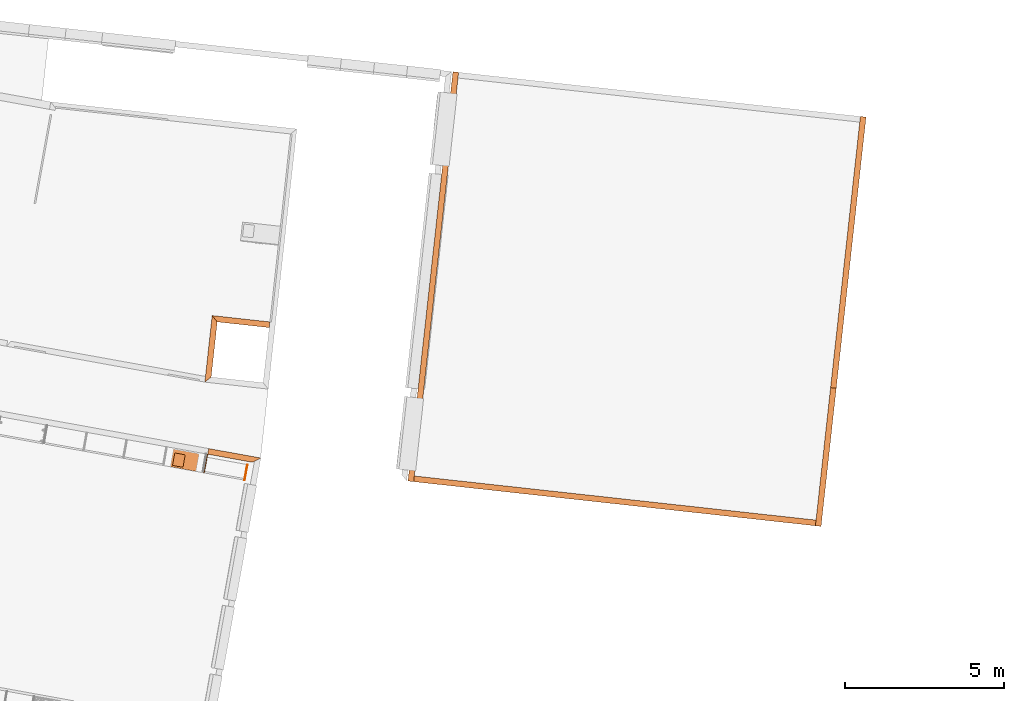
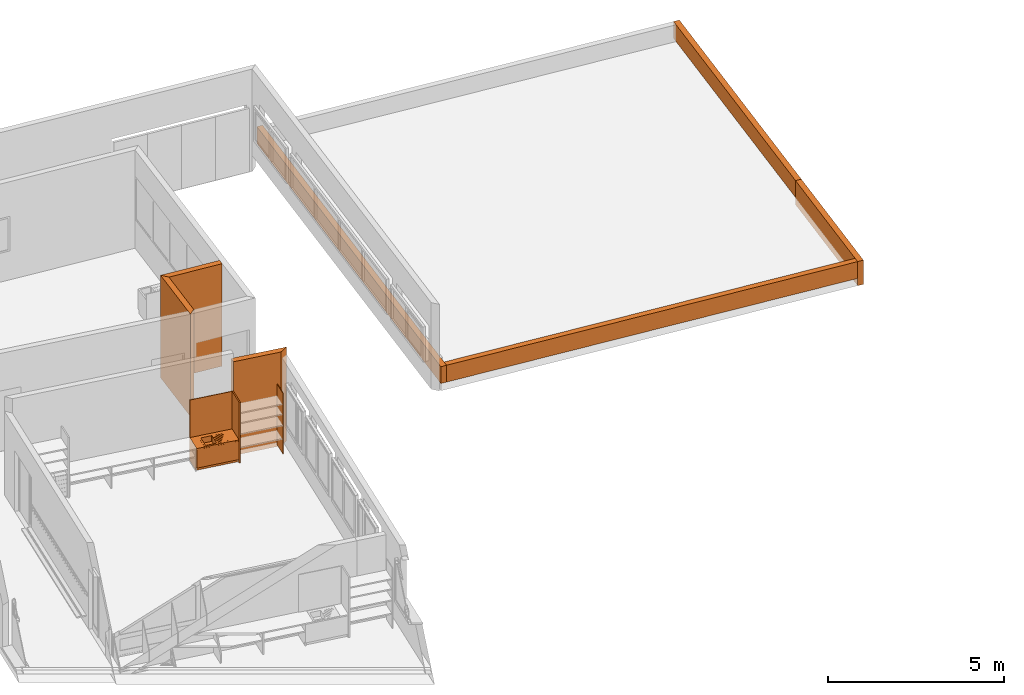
# One storey, part 25 of 52: 10 proxies.
"""IFC2X3 building model written with IfcOpenShell, lengths in metres."""

from ifc_helpers import new_model, entity, si_unit, converted_unit, derived_unit, money_unit, direction, frame, origin_with_axes, place, context, subcontext, project, spatial, polyline, outline, extrude, open_shell, faceted_brep, surface_model, source, transform, mapped, material, type_object, element, save


model = new_model("IFC2X3")

# Units and contexts
model_context = context("Model", 3, precision=1e-05, world=origin_with_axes(), true_north=direction((0.0, 1.0)))
body_context = subcontext(model_context, "Body", "Model", "MODEL_VIEW")
ifc_project = project(units=[si_unit("LENGTHUNIT", "METRE"), si_unit("AREAUNIT", "SQUARE_METRE"), si_unit("VOLUMEUNIT", "CUBIC_METRE"), converted_unit("PLANEANGLEUNIT", "DEGREE", entity("IfcPlaneAngleMeasure", 0.0174532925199), si_unit("PLANEANGLEUNIT", "RADIAN"), dimensions=[0, 0, 0, 0, 0, 0, 0]), money_unit("CHF"), converted_unit("TIMEUNIT", "Year", entity("IfcTimeMeasure", 31556926.0), si_unit("TIMEUNIT", "SECOND"), dimensions=[0, 0, 1, 0, 0, 0, 0]), si_unit("MASSUNIT", "GRAM", prefix="KILO"), si_unit("THERMODYNAMICTEMPERATUREUNIT", "DEGREE_CELSIUS"), si_unit("LUMINOUSINTENSITYUNIT", "LUMEN"), si_unit("ENERGYUNIT", "JOULE", prefix="MEGA"), derived_unit("THERMALCONDUCTANCEUNIT", [(si_unit("POWERUNIT", "WATT"), 1), (si_unit("LENGTHUNIT", "METRE"), -1), (si_unit("THERMODYNAMICTEMPERATUREUNIT", "KELVIN"), -1)]), derived_unit("SPECIFICHEATCAPACITYUNIT", [(si_unit("ENERGYUNIT", "JOULE"), 1), (si_unit("MASSUNIT", "GRAM", prefix="KILO"), -1), (si_unit("THERMODYNAMICTEMPERATUREUNIT", "KELVIN"), -1)]), derived_unit("MASSDENSITYUNIT", [(si_unit("MASSUNIT", "GRAM", prefix="KILO"), 1), (si_unit("VOLUMEUNIT", "CUBIC_METRE"), -1)])], contexts=[model_context])

# Site, building, storey
site_placement = place(None, frame((0.0, 0.0, 0.0), z_axis=(0.0, 0.0, 1.0), x_axis=(-0.177771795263, -0.984071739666, 0.0)))
site = spatial("IfcSite", under=ifc_project, at=site_placement, Name="Site", CompositionType="ELEMENT")
building_placement = place(site_placement, origin_with_axes())
building = spatial("IfcBuilding", under=site, at=building_placement, Name="Bâtiment", CompositionType="ELEMENT")
storey_placement = place(building_placement, frame((0.0, 0.0, 3.2), z_axis=(0.0, 0.0, 1.0), x_axis=(1.0, 0.0, 0.0)))
storey = spatial("IfcBuildingStorey", under=building, at=storey_placement, Name="R+1", CompositionType="ELEMENT", Elevation=3.2)

# Proxies
ifc_material_1 = material(Name="_BA banché RAL9007")
building_element_proxy_type_1 = type_object("IfcBuildingElementProxyType", Name="_BA banché RAL9007 180", PredefinedType="NOTDEFINED")
proxy_1_placement = place(storey_placement, frame((105.959479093, -150.412260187, -0.15), z_axis=(0.0, 0.0, 1.0), x_axis=(-0.0692640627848, 0.997598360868, 0.0)))
element("IfcBuildingElementProxy", 1, at=proxy_1_placement, inside=storey, type_object=building_element_proxy_type_1, material=ifc_material_1, Name="M refend", context=body_context, shape_type="SweptSolid", body=[
    extrude(outline(polyline([(0.18, 0.0), (1.83000000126, 0.0), (1.83000000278, 0.18), (1.52400048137e-09, 0.18), (0.18, 0.0)])), origin_with_axes(), (0.0, 0.0, 1.0), 3.55),
])
proxy_2_placement = place(storey_placement, frame((107.884841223, -150.27858075, -0.15), z_axis=(0.0, 0.0, 1.0), x_axis=(-0.997598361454, -0.0692640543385, 0.0)))
element("IfcBuildingElementProxy", 2, at=proxy_2_placement, inside=storey, type_object=building_element_proxy_type_1, material=ifc_material_1, Name="M refend", context=body_context, shape_type="SweptSolid", body=[
    extrude(outline(polyline([(0.179997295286, -0.18), (1.92999728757, -0.18), (2.10999728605, 0.0), (-2.70471436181e-06, 0.0), (0.179997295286, -0.18)])), origin_with_axes(), (0.0, 0.0, 1.0), 3.55),
])
ifc_material_2 = material(Name="Matériau de construction IFC")
building_element_proxy_type_2 = type_object("IfcBuildingElementProxyType", Name="Elément simple avec deux portes 21", PredefinedType="NOTDEFINED")
shared_shape = source(origin_with_axes(), body_context, "Body", "SurfaceModel", [
    surface_model("IfcShellBasedSurfaceModel", [(0.5, 0.600000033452, 0.733), (0.496505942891, 0.600000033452, 0.733460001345), (0.496505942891, 0.620000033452, 0.733460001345), (0.5, 0.620000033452, 0.733), (0.49325, 0.600000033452, 0.734808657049), (0.49325, 0.620000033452, 0.734808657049), (0.503494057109, 0.600000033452, 0.733460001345), (0.503494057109, 0.620000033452, 0.733460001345), (0.490454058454, 0.600000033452, 0.736954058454), (0.490454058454, 0.620000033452, 0.736954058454), (0.50675, 0.600000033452, 0.734808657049), (0.50675, 0.620000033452, 0.734808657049), (0.488308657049, 0.600000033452, 0.73975), (0.488308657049, 0.620000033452, 0.73975), (0.509545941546, 0.600000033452, 0.736954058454), (0.509545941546, 0.620000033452, 0.736954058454), (0.486960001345, 0.600000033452, 0.743005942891), (0.486960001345, 0.620000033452, 0.743005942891), (0.511691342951, 0.600000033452, 0.73975), (0.511691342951, 0.620000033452, 0.73975), (0.4865, 0.600000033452, 0.7465), (0.4865, 0.620000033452, 0.7465), (0.513039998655, 0.600000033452, 0.743005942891), (0.513039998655, 0.620000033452, 0.743005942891), (0.486960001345, 0.600000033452, 0.749994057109), (0.486960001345, 0.620000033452, 0.749994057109), (0.5135, 0.600000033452, 0.7465), (0.5135, 0.620000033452, 0.7465), (0.488308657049, 0.600000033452, 0.75325), (0.488308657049, 0.620000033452, 0.75325), (0.513039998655, 0.600000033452, 0.749994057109), (0.513039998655, 0.620000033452, 0.749994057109), (0.490454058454, 0.600000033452, 0.756045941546), (0.490454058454, 0.620000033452, 0.756045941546), (0.511691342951, 0.600000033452, 0.75325), (0.511691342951, 0.620000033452, 0.75325), (0.49325, 0.600000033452, 0.758191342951), (0.49325, 0.620000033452, 0.758191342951), (0.509545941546, 0.600000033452, 0.756045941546), (0.509545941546, 0.620000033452, 0.756045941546), (0.496505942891, 0.600000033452, 0.759539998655), (0.496505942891, 0.620000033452, 0.759539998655), (0.50675, 0.600000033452, 0.758191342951), (0.50675, 0.620000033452, 0.758191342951), (0.5, 0.600000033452, 0.76), (0.5, 0.620000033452, 0.76), (0.503494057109, 0.600000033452, 0.759539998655), (0.503494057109, 0.620000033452, 0.759539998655)], [open_shell([[[0, 1, 2, 3]], [[1, 4, 5, 2]], [[6, 0, 3, 7]], [[4, 8, 9, 5]], [[10, 6, 7, 11]], [[8, 12, 13, 9]], [[14, 10, 11, 15]], [[12, 16, 17, 13]], [[18, 14, 15, 19]], [[16, 20, 21, 17]], [[22, 18, 19, 23]], [[20, 24, 25, 21]], [[26, 22, 23, 27]], [[24, 28, 29, 25]], [[30, 26, 27, 31]], [[28, 32, 33, 29]], [[34, 30, 31, 35]], [[32, 36, 37, 33]], [[38, 34, 35, 39]], [[36, 40, 41, 37]], [[42, 38, 39, 43]], [[40, 44, 45, 41]], [[46, 42, 43, 47]], [[44, 46, 47, 45]]])]),
    surface_model("IfcShellBasedSurfaceModel", [(0.7, 0.600000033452, 0.733), (0.696505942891, 0.600000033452, 0.733460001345), (0.696505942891, 0.620000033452, 0.733460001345), (0.7, 0.620000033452, 0.733), (0.69325, 0.600000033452, 0.734808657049), (0.69325, 0.620000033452, 0.734808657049), (0.703494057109, 0.600000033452, 0.733460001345), (0.703494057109, 0.620000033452, 0.733460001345), (0.690454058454, 0.600000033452, 0.736954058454), (0.690454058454, 0.620000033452, 0.736954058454), (0.70675, 0.600000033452, 0.734808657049), (0.70675, 0.620000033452, 0.734808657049), (0.688308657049, 0.600000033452, 0.73975), (0.688308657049, 0.620000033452, 0.73975), (0.709545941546, 0.600000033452, 0.736954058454), (0.709545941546, 0.620000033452, 0.736954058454), (0.686960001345, 0.600000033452, 0.743005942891), (0.686960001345, 0.620000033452, 0.743005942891), (0.711691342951, 0.600000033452, 0.73975), (0.711691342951, 0.620000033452, 0.73975), (0.6865, 0.600000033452, 0.7465), (0.6865, 0.620000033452, 0.7465), (0.713039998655, 0.600000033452, 0.743005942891), (0.713039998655, 0.620000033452, 0.743005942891), (0.686960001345, 0.600000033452, 0.749994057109), (0.686960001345, 0.620000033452, 0.749994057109), (0.7135, 0.600000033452, 0.7465), (0.7135, 0.620000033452, 0.7465), (0.688308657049, 0.600000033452, 0.75325), (0.688308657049, 0.620000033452, 0.75325), (0.713039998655, 0.600000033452, 0.749994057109), (0.713039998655, 0.620000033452, 0.749994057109), (0.690454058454, 0.600000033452, 0.756045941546), (0.690454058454, 0.620000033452, 0.756045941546), (0.711691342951, 0.600000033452, 0.75325), (0.711691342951, 0.620000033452, 0.75325), (0.69325, 0.600000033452, 0.758191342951), (0.69325, 0.620000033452, 0.758191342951), (0.709545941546, 0.600000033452, 0.756045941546), (0.709545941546, 0.620000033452, 0.756045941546), (0.696505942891, 0.600000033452, 0.759539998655), (0.696505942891, 0.620000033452, 0.759539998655), (0.70675, 0.600000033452, 0.758191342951), (0.70675, 0.620000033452, 0.758191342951), (0.7, 0.600000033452, 0.76), (0.7, 0.620000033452, 0.76), (0.703494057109, 0.600000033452, 0.759539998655), (0.703494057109, 0.620000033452, 0.759539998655)], [open_shell([[[0, 1, 2, 3]], [[1, 4, 5, 2]], [[6, 0, 3, 7]], [[4, 8, 9, 5]], [[10, 6, 7, 11]], [[8, 12, 13, 9]], [[14, 10, 11, 15]], [[12, 16, 17, 13]], [[18, 14, 15, 19]], [[16, 20, 21, 17]], [[22, 18, 19, 23]], [[20, 24, 25, 21]], [[26, 22, 23, 27]], [[24, 28, 29, 25]], [[30, 26, 27, 31]], [[28, 32, 33, 29]], [[34, 30, 31, 35]], [[32, 36, 37, 33]], [[38, 34, 35, 39]], [[36, 40, 41, 37]], [[42, 38, 39, 43]], [[40, 44, 45, 41]], [[46, 42, 43, 47]], [[44, 46, 47, 45]]])]),
    surface_model("IfcShellBasedSurfaceModel", [(0.6, 0.600000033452, 0.579), (0.594564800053, 0.600000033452, 0.579715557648), (0.594564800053, 0.620000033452, 0.579715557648), (0.6, 0.620000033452, 0.579), (0.5895, 0.600000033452, 0.581813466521), (0.5895, 0.620000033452, 0.581813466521), (0.605435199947, 0.600000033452, 0.579715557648), (0.605435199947, 0.620000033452, 0.579715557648), (0.585150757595, 0.600000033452, 0.585150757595), (0.585150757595, 0.620000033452, 0.585150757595), (0.6105, 0.600000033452, 0.581813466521), (0.6105, 0.620000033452, 0.581813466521), (0.581813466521, 0.600000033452, 0.5895), (0.581813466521, 0.620000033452, 0.5895), (0.614849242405, 0.600000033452, 0.585150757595), (0.614849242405, 0.620000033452, 0.585150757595), (0.579715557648, 0.600000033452, 0.594564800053), (0.579715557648, 0.620000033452, 0.594564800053), (0.618186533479, 0.600000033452, 0.5895), (0.618186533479, 0.620000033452, 0.5895), (0.579, 0.600000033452, 0.6), (0.579, 0.620000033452, 0.6), (0.620284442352, 0.600000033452, 0.594564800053), (0.620284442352, 0.620000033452, 0.594564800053), (0.579715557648, 0.600000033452, 0.605435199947), (0.579715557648, 0.620000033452, 0.605435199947), (0.621, 0.600000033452, 0.6), (0.621, 0.620000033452, 0.6), (0.581813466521, 0.600000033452, 0.6105), (0.581813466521, 0.620000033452, 0.6105), (0.620284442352, 0.600000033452, 0.605435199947), (0.620284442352, 0.620000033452, 0.605435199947), (0.585150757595, 0.600000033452, 0.614849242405), (0.585150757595, 0.620000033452, 0.614849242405), (0.618186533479, 0.600000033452, 0.6105), (0.618186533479, 0.620000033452, 0.6105), (0.5895, 0.600000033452, 0.618186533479), (0.5895, 0.620000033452, 0.618186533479), (0.614849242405, 0.600000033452, 0.614849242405), (0.614849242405, 0.620000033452, 0.614849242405), (0.594564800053, 0.600000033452, 0.620284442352), (0.594564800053, 0.620000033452, 0.620284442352), (0.6105, 0.600000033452, 0.618186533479), (0.6105, 0.620000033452, 0.618186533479), (0.6, 0.600000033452, 0.621), (0.6, 0.620000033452, 0.621), (0.605435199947, 0.600000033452, 0.620284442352), (0.605435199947, 0.620000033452, 0.620284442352)], [open_shell([[[0, 1, 2, 3]], [[1, 4, 5, 2]], [[6, 0, 3, 7]], [[4, 8, 9, 5]], [[10, 6, 7, 11]], [[8, 12, 13, 9]], [[14, 10, 11, 15]], [[12, 16, 17, 13]], [[18, 14, 15, 19]], [[16, 20, 21, 17]], [[22, 18, 19, 23]], [[20, 24, 25, 21]], [[26, 22, 23, 27]], [[24, 28, 29, 25]], [[30, 26, 27, 31]], [[28, 32, 33, 29]], [[34, 30, 31, 35]], [[32, 36, 37, 33]], [[38, 34, 35, 39]], [[36, 40, 41, 37]], [[42, 38, 39, 43]], [[40, 44, 45, 41]], [[46, 42, 43, 47]], [[44, 46, 47, 45]]])]),
    faceted_brep([(0.0, 0.07, 0.0), (1.278, 0.07, 0.0), (1.278, 0.07, 0.12), (0.0, 0.07, 0.12), (0.0, 0.600000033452, 0.0), (1.278, 0.600000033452, 0.0), (1.278, 0.600000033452, 0.12), (0.0, 0.600000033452, 0.12)], [[[0, 1, 2, 3]], [[0, 4, 5, 1]], [[1, 5, 6, 2]], [[3, 2, 6, 7]], [[4, 0, 3, 7]], [[5, 4, 7, 6]]]),
    faceted_brep([(0.0, 0.02, 0.12), (0.02, 0.02, 0.12), (0.02, 0.02, 0.14), (0.0, 0.02, 0.14), (0.0, 0.600000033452, 0.12), (0.02, 0.600000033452, 0.12), (1.258, 0.600000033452, 0.12), (1.278, 0.600000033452, 0.12), (1.278, 0.02, 0.12), (1.258, 0.02, 0.12), (1.258, 0.02, 0.14), (1.278, 0.02, 0.14), (1.278, 0.600000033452, 0.14), (1.258, 0.600000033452, 0.14), (0.02, 0.600000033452, 0.14), (0.0, 0.600000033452, 0.14)], [[[0, 1, 2, 3]], [[0, 4, 5, 6, 7, 8, 9, 1]], [[1, 9, 10, 2]], [[3, 2, 10, 11, 12, 13, 14, 15]], [[4, 0, 3, 15]], [[5, 4, 15, 14]], [[6, 5, 14, 13]], [[7, 6, 13, 12]], [[8, 7, 12, 11]], [[9, 8, 11, 10]]]),
    faceted_brep([(0.0, 0.02, 0.14), (0.02, 0.02, 0.14), (0.02, 0.02, 0.76), (0.0, 0.02, 0.76), (0.0, 0.600000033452, 0.14), (1.278, 0.600000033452, 0.14), (1.278, 0.02, 0.14), (1.258, 0.02, 0.14), (1.258, 0.580000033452, 0.14), (0.02, 0.580000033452, 0.14), (0.02, 0.580000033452, 0.76), (1.258, 0.580000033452, 0.76), (1.258, 0.02, 0.76), (1.278, 0.02, 0.76), (1.278, 0.600000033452, 0.76), (0.0, 0.600000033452, 0.76)], [[[0, 1, 2, 3]], [[0, 4, 5, 6, 7, 8, 9, 1]], [[1, 9, 10, 2]], [[3, 2, 10, 11, 12, 13, 14, 15]], [[4, 0, 3, 15]], [[5, 4, 15, 14]], [[6, 5, 14, 13]], [[7, 6, 13, 12]], [[8, 7, 12, 11]], [[9, 8, 11, 10]]]),
    faceted_brep([(1.258, 0.02, 0.41), (1.258, 0.580000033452, 0.41), (1.258, 0.580000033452, 0.43), (1.258, 0.02, 0.43), (0.02, 0.02, 0.41), (0.02, 0.580000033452, 0.41), (0.02, 0.580000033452, 0.43), (0.02, 0.02, 0.43)], [[[0, 1, 2, 3]], [[0, 4, 5, 1]], [[1, 5, 6, 2]], [[3, 2, 6, 7]], [[4, 0, 3, 7]], [[5, 4, 7, 6]]]),
    surface_model("IfcShellBasedSurfaceModel", [(0.309, 0.0550000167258, 0.605), (0.604, 0.0550000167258, 0.605), (0.604, 0.0550000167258, 0.8), (0.309, 0.0550000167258, 0.8), (0.299, 0.0576795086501, 0.605), (0.291679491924, 0.0650000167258, 0.605), (0.289, 0.0750000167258, 0.605), (0.289, 0.435000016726, 0.605), (0.291679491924, 0.445000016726, 0.605), (0.299, 0.452320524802, 0.605), (0.309, 0.455000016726, 0.605), (0.604, 0.455000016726, 0.605), (0.614, 0.452320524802, 0.605), (0.621320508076, 0.445000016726, 0.605), (0.624, 0.435000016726, 0.605), (0.624, 0.0750000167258, 0.605), (0.618142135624, 0.0608578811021, 0.605), (0.618142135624, 0.0608578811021, 0.8), (0.299, 0.0576795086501, 0.8), (0.291679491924, 0.0650000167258, 0.8), (0.289, 0.0750000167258, 0.8), (0.289, 0.435000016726, 0.8), (0.291679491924, 0.445000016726, 0.8), (0.299, 0.452320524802, 0.8), (0.309, 0.455000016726, 0.8), (0.604, 0.455000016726, 0.8), (0.614, 0.452320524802, 0.8), (0.621320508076, 0.445000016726, 0.8), (0.624, 0.435000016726, 0.8), (0.624, 0.0750000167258, 0.8)], [open_shell([[[0, 1, 2, 3]], [[0, 4, 5, 6, 7, 8, 9, 10, 11, 12, 13, 14, 15, 16, 1]], [[1, 16, 17, 2]], [[4, 0, 3, 18]], [[5, 4, 18, 19]], [[6, 5, 19, 20]], [[7, 6, 20, 21]], [[8, 7, 21, 22]], [[9, 8, 22, 23]], [[10, 9, 23, 24]], [[11, 10, 24, 25]], [[12, 11, 25, 26]], [[13, 12, 26, 27]], [[14, 13, 27, 28]], [[15, 14, 28, 29]], [[16, 15, 29, 17]]])]),
    faceted_brep([(0.259, 0.00500001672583, 0.8), (1.019, 0.00500001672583, 0.8), (1.019, 0.00500001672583, 0.805), (0.259, 0.00500001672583, 0.805), (0.249, 0.00767950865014, 0.8), (0.241679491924, 0.0150000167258, 0.8), (0.239, 0.0250000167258, 0.8), (0.239, 0.535000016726, 0.8), (0.241679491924, 0.545000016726, 0.8), (0.249, 0.552320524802, 0.8), (0.259, 0.555000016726, 0.8), (1.019, 0.555000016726, 0.8), (1.029, 0.552320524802, 0.8), (1.03632050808, 0.545000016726, 0.8), (1.039, 0.535000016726, 0.8), (1.039, 0.0250000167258, 0.8), (1.03314213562, 0.0108578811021, 0.8), (0.309, 0.0550000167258, 0.8), (0.604, 0.0550000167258, 0.8), (0.618142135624, 0.0608578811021, 0.8), (0.624, 0.0750000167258, 0.8), (0.624, 0.435000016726, 0.8), (0.621320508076, 0.445000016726, 0.8), (0.614, 0.452320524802, 0.8), (0.604, 0.455000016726, 0.8), (0.309, 0.455000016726, 0.8), (0.299, 0.452320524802, 0.8), (0.291679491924, 0.445000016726, 0.8), (0.289, 0.435000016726, 0.8), (0.289, 0.0750000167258, 0.8), (0.291679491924, 0.0650000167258, 0.8), (0.299, 0.0576795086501, 0.8), (1.03314213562, 0.0108578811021, 0.805), (1.039, 0.0250000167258, 0.805), (1.039, 0.535000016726, 0.805), (1.03632050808, 0.545000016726, 0.805), (1.029, 0.552320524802, 0.805), (1.019, 0.555000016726, 0.805), (0.259, 0.555000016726, 0.805), (0.249, 0.552320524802, 0.805), (0.241679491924, 0.545000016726, 0.805), (0.239, 0.535000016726, 0.805), (0.239, 0.0250000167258, 0.805), (0.241679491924, 0.0150000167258, 0.805), (0.249, 0.00767950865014, 0.805), (0.309, 0.0550000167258, 0.805), (0.299, 0.0576795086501, 0.805), (0.291679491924, 0.0650000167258, 0.805), (0.289, 0.0750000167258, 0.805), (0.289, 0.435000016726, 0.805), (0.291679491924, 0.445000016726, 0.805), (0.299, 0.452320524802, 0.805), (0.309, 0.455000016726, 0.805), (0.604, 0.455000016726, 0.805), (0.614, 0.452320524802, 0.805), (0.621320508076, 0.445000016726, 0.805), (0.624, 0.435000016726, 0.805), (0.624, 0.0750000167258, 0.805), (0.618142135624, 0.0608578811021, 0.805), (0.604, 0.0550000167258, 0.805)], [[[0, 1, 2, 3]], [[0, 4, 5, 6, 7, 8, 9, 10, 11, 12, 13, 14, 15, 16, 1], [17, 18, 19, 20, 21, 22, 23, 24, 25, 26, 27, 28, 29, 30, 31]], [[1, 16, 32, 2]], [[3, 2, 32, 33, 34, 35, 36, 37, 38, 39, 40, 41, 42, 43, 44], [45, 46, 47, 48, 49, 50, 51, 52, 53, 54, 55, 56, 57, 58, 59]], [[4, 0, 3, 44]], [[5, 4, 44, 43]], [[6, 5, 43, 42]], [[7, 6, 42, 41]], [[8, 7, 41, 40]], [[9, 8, 40, 39]], [[10, 9, 39, 38]], [[11, 10, 38, 37]], [[12, 11, 37, 36]], [[13, 12, 36, 35]], [[14, 13, 35, 34]], [[15, 14, 34, 33]], [[16, 15, 33, 32]], [[18, 17, 45, 59]], [[19, 18, 59, 58]], [[20, 19, 58, 57]], [[21, 20, 57, 56]], [[22, 21, 56, 55]], [[23, 22, 55, 54]], [[24, 23, 54, 53]], [[25, 24, 53, 52]], [[26, 25, 52, 51]], [[27, 26, 51, 50]], [[28, 27, 50, 49]], [[29, 28, 49, 48]], [[30, 29, 48, 47]], [[31, 30, 47, 46]], [[17, 31, 46, 45]]]),
    faceted_brep([(0.654, 0.0600000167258, 0.805), (0.959, 0.0600000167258, 0.805), (0.959, 0.0600000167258, 0.807), (0.654, 0.0600000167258, 0.807), (0.654, 0.0650000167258, 0.805), (0.959, 0.0650000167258, 0.805), (0.959, 0.0650000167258, 0.807), (0.654, 0.0650000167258, 0.807)], [[[0, 1, 2, 3]], [[0, 4, 5, 1]], [[1, 5, 6, 2]], [[3, 2, 6, 7]], [[4, 0, 3, 7]], [[5, 4, 7, 6]]]),
    faceted_brep([(0.654, 0.0925000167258, 0.805), (0.989, 0.0925000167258, 0.805), (0.989, 0.0925000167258, 0.807), (0.654, 0.0925000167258, 0.807), (0.654, 0.0975000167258, 0.805), (0.989, 0.0975000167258, 0.805), (0.989, 0.0975000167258, 0.807), (0.654, 0.0975000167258, 0.807)], [[[0, 1, 2, 3]], [[0, 4, 5, 1]], [[1, 5, 6, 2]], [[3, 2, 6, 7]], [[4, 0, 3, 7]], [[5, 4, 7, 6]]]),
    faceted_brep([(0.654, 0.125000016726, 0.805), (0.989, 0.125000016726, 0.805), (0.989, 0.125000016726, 0.807), (0.654, 0.125000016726, 0.807), (0.654, 0.130000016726, 0.805), (0.989, 0.130000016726, 0.805), (0.989, 0.130000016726, 0.807), (0.654, 0.130000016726, 0.807)], [[[0, 1, 2, 3]], [[0, 4, 5, 1]], [[1, 5, 6, 2]], [[3, 2, 6, 7]], [[4, 0, 3, 7]], [[5, 4, 7, 6]]]),
    faceted_brep([(0.654, 0.157500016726, 0.805), (0.989, 0.157500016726, 0.805), (0.989, 0.157500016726, 0.807), (0.654, 0.157500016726, 0.807), (0.654, 0.162500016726, 0.805), (0.989, 0.162500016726, 0.805), (0.989, 0.162500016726, 0.807), (0.654, 0.162500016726, 0.807)], [[[0, 1, 2, 3]], [[0, 4, 5, 1]], [[1, 5, 6, 2]], [[3, 2, 6, 7]], [[4, 0, 3, 7]], [[5, 4, 7, 6]]]),
    faceted_brep([(0.654, 0.190000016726, 0.805), (0.989, 0.190000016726, 0.805), (0.989, 0.190000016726, 0.807), (0.654, 0.190000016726, 0.807), (0.654, 0.195000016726, 0.805), (0.989, 0.195000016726, 0.805), (0.989, 0.195000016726, 0.807), (0.654, 0.195000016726, 0.807)], [[[0, 1, 2, 3]], [[0, 4, 5, 1]], [[1, 5, 6, 2]], [[3, 2, 6, 7]], [[4, 0, 3, 7]], [[5, 4, 7, 6]]]),
    faceted_brep([(0.654, 0.222500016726, 0.805), (0.989, 0.222500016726, 0.805), (0.989, 0.222500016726, 0.807), (0.654, 0.222500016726, 0.807), (0.654, 0.227500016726, 0.805), (0.989, 0.227500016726, 0.805), (0.989, 0.227500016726, 0.807), (0.654, 0.227500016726, 0.807)], [[[0, 1, 2, 3]], [[0, 4, 5, 1]], [[1, 5, 6, 2]], [[3, 2, 6, 7]], [[4, 0, 3, 7]], [[5, 4, 7, 6]]]),
    faceted_brep([(0.654, 0.255000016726, 0.805), (0.989, 0.255000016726, 0.805), (0.989, 0.255000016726, 0.807), (0.654, 0.255000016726, 0.807), (0.654, 0.260000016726, 0.805), (0.989, 0.260000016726, 0.805), (0.989, 0.260000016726, 0.807), (0.654, 0.260000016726, 0.807)], [[[0, 1, 2, 3]], [[0, 4, 5, 1]], [[1, 5, 6, 2]], [[3, 2, 6, 7]], [[4, 0, 3, 7]], [[5, 4, 7, 6]]]),
    faceted_brep([(0.654, 0.287500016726, 0.805), (0.989, 0.287500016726, 0.805), (0.989, 0.287500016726, 0.807), (0.654, 0.287500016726, 0.807), (0.654, 0.292500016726, 0.805), (0.989, 0.292500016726, 0.805), (0.989, 0.292500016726, 0.807), (0.654, 0.292500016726, 0.807)], [[[0, 1, 2, 3]], [[0, 4, 5, 1]], [[1, 5, 6, 2]], [[3, 2, 6, 7]], [[4, 0, 3, 7]], [[5, 4, 7, 6]]]),
    faceted_brep([(0.654, 0.320000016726, 0.805), (0.989, 0.320000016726, 0.805), (0.989, 0.320000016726, 0.807), (0.654, 0.320000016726, 0.807), (0.654, 0.325000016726, 0.805), (0.989, 0.325000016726, 0.805), (0.989, 0.325000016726, 0.807), (0.654, 0.325000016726, 0.807)], [[[0, 1, 2, 3]], [[0, 4, 5, 1]], [[1, 5, 6, 2]], [[3, 2, 6, 7]], [[4, 0, 3, 7]], [[5, 4, 7, 6]]]),
    faceted_brep([(0.654, 0.352500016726, 0.805), (0.989, 0.352500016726, 0.805), (0.989, 0.352500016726, 0.807), (0.654, 0.352500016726, 0.807), (0.654, 0.357500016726, 0.805), (0.989, 0.357500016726, 0.805), (0.989, 0.357500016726, 0.807), (0.654, 0.357500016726, 0.807)], [[[0, 1, 2, 3]], [[0, 4, 5, 1]], [[1, 5, 6, 2]], [[3, 2, 6, 7]], [[4, 0, 3, 7]], [[5, 4, 7, 6]]]),
    faceted_brep([(0.654, 0.385000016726, 0.805), (0.989, 0.385000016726, 0.805), (0.989, 0.385000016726, 0.807), (0.654, 0.385000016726, 0.807), (0.654, 0.390000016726, 0.805), (0.989, 0.390000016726, 0.805), (0.989, 0.390000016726, 0.807), (0.654, 0.390000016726, 0.807)], [[[0, 1, 2, 3]], [[0, 4, 5, 1]], [[1, 5, 6, 2]], [[3, 2, 6, 7]], [[4, 0, 3, 7]], [[5, 4, 7, 6]]]),
    faceted_brep([(0.654, 0.417500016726, 0.805), (0.989, 0.417500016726, 0.805), (0.989, 0.417500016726, 0.807), (0.654, 0.417500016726, 0.807), (0.654, 0.422500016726, 0.805), (0.989, 0.422500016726, 0.805), (0.989, 0.422500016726, 0.807), (0.654, 0.422500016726, 0.807)], [[[0, 1, 2, 3]], [[0, 4, 5, 1]], [[1, 5, 6, 2]], [[3, 2, 6, 7]], [[4, 0, 3, 7]], [[5, 4, 7, 6]]]),
    faceted_brep([(0.654, 0.450000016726, 0.805), (0.959, 0.450000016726, 0.805), (0.959, 0.450000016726, 0.807), (0.654, 0.450000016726, 0.807), (0.654, 0.455000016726, 0.805), (0.959, 0.455000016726, 0.805), (0.959, 0.455000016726, 0.807), (0.654, 0.455000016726, 0.807)], [[[0, 1, 2, 3]], [[0, 4, 5, 1]], [[1, 5, 6, 2]], [[3, 2, 6, 7]], [[4, 0, 3, 7]], [[5, 4, 7, 6]]]),
    faceted_brep([(0.0, 0.0, 0.76), (1.278, 0.0, 0.76), (1.278, 0.0, 0.8), (0.0, 0.0, 0.8), (0.0, 0.600000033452, 0.76), (1.278, 0.600000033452, 0.76), (0.264, 0.0500000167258, 0.76), (1.014, 0.0500000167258, 0.76), (1.014, 0.535000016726, 0.76), (0.264, 0.535000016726, 0.76), (1.278, 0.600000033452, 0.8), (0.0, 0.600000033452, 0.8), (0.264, 0.0500000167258, 0.8), (0.264, 0.535000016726, 0.8), (1.014, 0.535000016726, 0.8), (1.014, 0.0500000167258, 0.8)], [[[0, 1, 2, 3]], [[0, 4, 5, 1], [6, 7, 8, 9]], [[1, 5, 10, 2]], [[3, 2, 10, 11], [12, 13, 14, 15]], [[4, 0, 3, 11]], [[5, 4, 11, 10]], [[7, 6, 12, 15]], [[8, 7, 15, 14]], [[9, 8, 14, 13]], [[6, 9, 13, 12]]]),
    faceted_brep([(0.0, 0.580000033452, 0.8), (1.278, 0.580000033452, 0.8), (1.278, 0.580000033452, 2.1), (0.0, 0.580000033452, 2.1), (0.0, 0.600000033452, 0.8), (1.278, 0.600000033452, 0.8), (1.278, 0.600000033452, 2.1), (0.0, 0.600000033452, 2.1)], [[[0, 1, 2, 3]], [[0, 4, 5, 1]], [[1, 5, 6, 2]], [[3, 2, 6, 7]], [[4, 0, 3, 7]], [[5, 4, 7, 6]]]),
    faceted_brep([(0.0015, 0.02, 0.1215), (0.6375, 0.02, 0.1215), (0.6375, 0.0, 0.1215), (0.0015, 0.0, 0.1215), (0.0015, 0.02, 0.7585), (0.6375, 0.02, 0.7585), (0.6375, 0.0, 0.7585), (0.0015, 0.0, 0.7585)], [[[0, 1, 2, 3]], [[0, 4, 5, 1]], [[1, 5, 6, 2]], [[3, 2, 6, 7]], [[4, 0, 3, 7]], [[5, 4, 7, 6]]]),
    faceted_brep([(1.2765, 0.02, 0.1215), (1.2765, 0.0, 0.1215), (0.6405, 0.0, 0.1215), (0.6405, 0.02, 0.1215), (1.2765, 0.02, 0.7585), (1.2765, 0.0, 0.7585), (0.6405, 0.0, 0.7585), (0.6405, 0.02, 0.7585)], [[[0, 1, 2, 3]], [[4, 5, 1, 0]], [[1, 5, 6, 2]], [[3, 2, 6, 7]], [[0, 3, 7, 4]], [[7, 6, 5, 4]]]),
])
proxy_3_placement = place(storey_placement, frame((110.704841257, -151.104151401, 0.0), z_axis=(0.0, 0.0, 1.0), x_axis=(0.0, 1.0, 0.0)))
element("IfcBuildingElementProxy", 3, at=proxy_3_placement, inside=storey, type_object=building_element_proxy_type_2, material=ifc_material_2, Name="evier-classe", context=body_context, shape_type="MappedRepresentation", body=[
    mapped(shared_shape, transform((0.0, 0.0, 0.0))),
])
ifc_material_3 = material(Name="_panneau mélaminé")
building_element_proxy_type_3 = type_object("IfcBuildingElementProxyType", Name="_panneau mélaminé 40", PredefinedType="NOTDEFINED")
proxy_4_placement = place(storey_placement, frame((110.704841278, -149.826151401, 0.0), z_axis=(0.0, 0.0, 1.0), x_axis=(-1.0, 0.0, 0.0)))
element("IfcBuildingElementProxy", 4, at=proxy_4_placement, inside=storey, type_object=building_element_proxy_type_3, material=ifc_material_3, Name="cloison-fd-classe D", context=body_context, shape_type="SweptSolid", body=[
    extrude(outline(polyline([(0.0, -0.04), (0.600000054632, -0.04), (0.600000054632, 0.0), (0.0, 0.0), (0.0, -0.04)])), origin_with_axes(), (0.0, 0.0, 1.0), 2.1),
])
building_element_proxy_type_4 = type_object("IfcBuildingElementProxyType", Name="_panneau mélaminé 19", PredefinedType="NOTDEFINED")
proxy_5_placement = place(storey_placement, frame((110.704841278, -148.506151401, 0.0), z_axis=(0.0, 0.0, 1.0), x_axis=(-1.0, 0.0, 0.0)))
element("IfcBuildingElementProxy", 5, at=proxy_5_placement, inside=storey, type_object=building_element_proxy_type_4, material=ifc_material_3, Name="cloison-fd-classe D", context=body_context, shape_type="SweptSolid", body=[
    extrude(outline(polyline([(0.0, -0.019), (0.500000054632, -0.019), (0.500000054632, 0.0), (0.0, 0.0), (0.0, -0.019)])), origin_with_axes(), (0.0, 0.0, 1.0), 2.1),
])
building_element_proxy_type_5 = type_object("IfcBuildingElementProxyType", Name="_M ext 18 +10 gris 280", PredefinedType="NOTDEFINED")
proxy_6_placement = place(storey_placement, frame((109.924841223, -149.786151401, -0.15), z_axis=(0.0, 0.0, 1.0), x_axis=(0.0, 1.0, 0.0)))
element("IfcBuildingElementProxy", 6, at=proxy_6_placement, inside=storey, type_object=building_element_proxy_type_5, material=ifc_material_1, Name="M retour_isol", context=body_context, shape_type="SweptSolid", body=[
    extrude(outline(polyline([(0.0, -0.18), (1.43757142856, -0.18), (1.66899999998, 0.0), (0.0, 0.0), (0.0, -0.18)])), origin_with_axes(), (0.0, 0.0, 1.0), 3.25),
])
building_element_proxy_type_6 = type_object("IfcBuildingElementProxyType", Name="_acrotere 230 x 850", PredefinedType="NOTDEFINED")
proxy_7_placement = place(storey_placement, frame((108.907663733, -130.355335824, 0.4), z_axis=(0.0, 0.0, 1.0), x_axis=(-0.997598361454, -0.0692640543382, 0.0)))
element("IfcBuildingElementProxy", 7, at=proxy_7_placement, inside=storey, type_object=building_element_proxy_type_6, material=ifc_material_1, Name="M acrot-pluri", context=body_context, shape_type="SweptSolid", body=[
    extrude(outline(polyline([(-0.180114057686, 0.792613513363), (-0.180114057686, 0.0), (0.0, 0.0), (0.0, 0.792613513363), (0.0, 0.812613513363), (0.0, 0.832613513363), (-0.180114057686, 0.832613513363), (-0.180114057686, 0.812613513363), (-0.180114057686, 0.792613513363)])), frame((0.0, 0.0, 0.0), z_axis=(-1.0, 0.0, 0.0), x_axis=(0.0, -1.0, 0.0)), (0.0, 0.0, -1.0), 4.37995514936),
])
building_element_proxy_type_7 = type_object("IfcBuildingElementProxyType", Name="_acrotere 230 x 600", PredefinedType="NOTDEFINED")
proxy_8_placement = place(storey_placement, frame((109.814989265, -143.423390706, 0.65), z_axis=(0.0, 0.0, 1.0), x_axis=(-0.0692640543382, 0.997598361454, 0.0)))
element("IfcBuildingElementProxy", 8, at=proxy_8_placement, inside=storey, type_object=building_element_proxy_type_7, material=ifc_material_1, Name="M acrot-pluri", context=body_context, shape_type="SweptSolid", body=[
    extrude(outline(polyline([(-0.180114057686, 0.542613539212), (-0.180114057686, 0.0), (0.0, 0.0), (0.0, 0.542613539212), (0.0, 0.562613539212), (0.0, 0.582613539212), (-0.180114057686, 0.582613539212), (-0.180114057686, 0.562613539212), (-0.180114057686, 0.542613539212)])), frame((0.0, 0.0, 0.0), z_axis=(-1.0, 0.0, 0.0), x_axis=(0.0, -1.0, 0.0)), (0.0, 0.0, -1.0), 13.099515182),
])
proxy_9_placement = place(storey_placement, frame((104.538227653, -130.658709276, 0.65), z_axis=(0.0, 0.0, 1.0), x_axis=(-0.997598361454, -0.0692640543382, 0.0)))
element("IfcBuildingElementProxy", 9, at=proxy_9_placement, inside=storey, type_object=building_element_proxy_type_7, material=ifc_material_1, Name="M acrot-pluri", context=body_context, shape_type="SweptSolid", body=[
    extrude(outline(polyline([(-0.180114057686, 0.542613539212), (-0.180114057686, 0.0), (0.0, 0.0), (0.0, 0.542613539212), (0.0, 0.562613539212), (0.0, 0.582613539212), (-0.180114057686, 0.582613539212), (-0.180114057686, 0.562613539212), (-0.180114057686, 0.542613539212)])), frame((0.0, 0.0, 0.0), z_axis=(-1.0, 0.0, 0.0), x_axis=(0.0, -1.0, 0.0)), (0.0, 0.0, -1.0), 8.6),
])
proxy_10_placement = place(storey_placement, frame((96.866207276, -144.322435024, 0.65), z_axis=(0.0, 0.0, 1.0), x_axis=(0.997598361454, 0.0692640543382, 0.0)))
element("IfcBuildingElementProxy", 10, at=proxy_10_placement, inside=storey, type_object=building_element_proxy_type_7, material=ifc_material_1, Name="M acrot-pluri", context=body_context, shape_type="SweptSolid", body=[
    extrude(outline(polyline([(-0.18, 0.542613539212), (-0.18, 0.0), (0.0, 0.0), (0.0, 0.542613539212), (0.0, 0.562613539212), (0.0, 0.582613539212), (-0.18, 0.582613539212), (-0.18, 0.562613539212), (-0.18, 0.542613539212)])), frame((0.0, 0.0, 0.0), z_axis=(-1.0, 0.0, 0.0), x_axis=(0.0, -1.0, 0.0)), (0.0, 0.0, -1.0), 12.9799551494),
])

save(model, "model.ifc")
